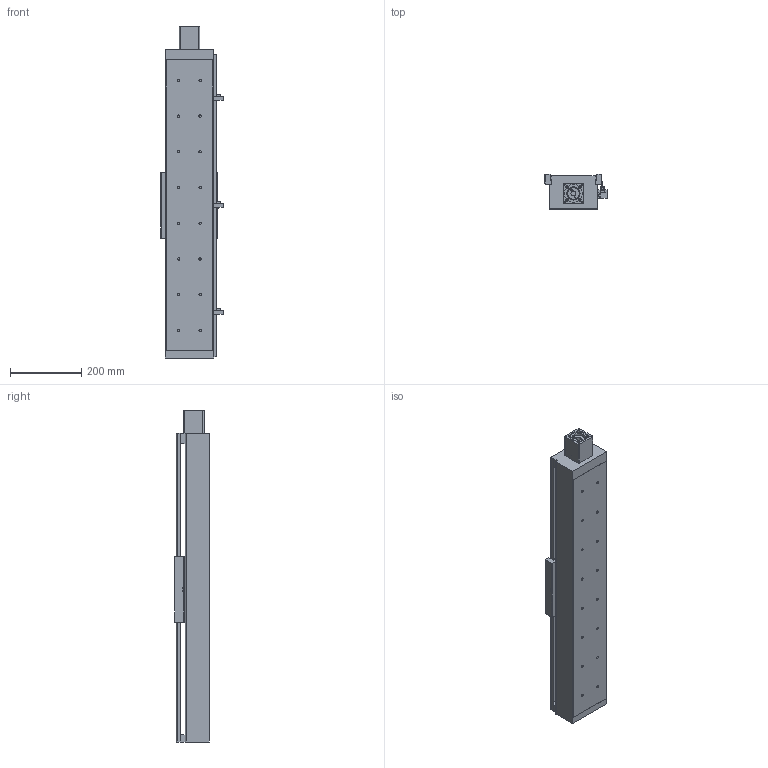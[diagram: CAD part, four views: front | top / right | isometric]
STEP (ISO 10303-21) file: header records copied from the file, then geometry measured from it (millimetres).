
FILE_DESCRIPTION((''),'2;1');
FILE_NAME('E:\libraries\UIA actuator library 2009\standard actuator\UIA136 ball screw 20\UIA136R15NDC-_ _ _-R20_ _-M60-P13-C10-S\UIA136R15NDC-600-R20_ _-M60-P13-C10-S.stp','2016-04-27T10:53:24',('h029'),(''),'Autodesk Inventor 11','Autodesk Inventor 11','');
FILE_SCHEMA(('AUTOMOTIVE_DESIGN { 1 0 10303 214 1 1 1 1 }'));
Length unit declared in the file: millimetre
Products named in the file (10): UIA136R15NDC-600; UIA136R15NDC-body; motor mount F60; SOH-32C; SOH-32C-3; SOH-32C-1; SOH-32C-2; Carriage; Sensor Switch; sensor rail
Assembly tree (9 placements, depth 3):
  UIA136R15NDC-600
    UIA136R15NDC-body
    motor mount F60
    SOH-32C
      SOH-32C-3
      SOH-32C-1
      SOH-32C-2
    Carriage
    Sensor Switch
    sensor rail
Bounding box: 174.5 x 98 x 930 mm (x, y, z)
Volume: 3694273.8 mm3; surface area: 990895.6 mm2
Topology: 8 solids, 8 shells, 491 faces, 1293 edges, 849 vertices
Faces by surface type: plane 311, bspline 138, cylinder 38, cone 4
Full cylindrical faces by diameter (mm): 2.459 x2, 3.242 x2, 4.5 x2, 5.5 x3, 7.5 x2, 10 x2, 12 x1, 14 x1, 32 x3, 37 x1, 41.9 x1, 42.1 x1, 43.5 x1
Entity records: 16115 total; most frequent: CARTESIAN_POINT 4754, ORIENTED_EDGE 2194, DIRECTION 2130, EDGE_CURVE 1097, VECTOR 790, LINE 790, VERTEX_POINT 784, EDGE_LOOP 737
